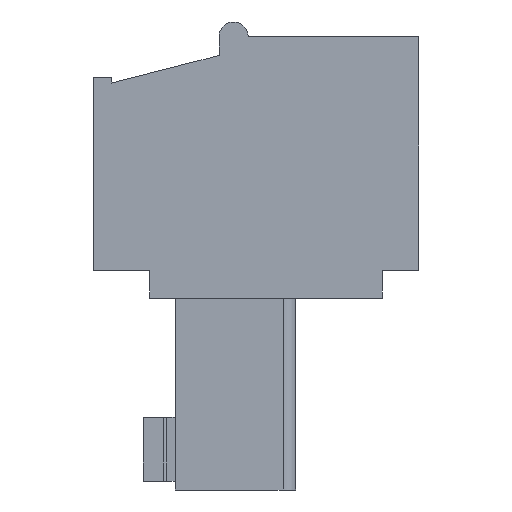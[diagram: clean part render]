
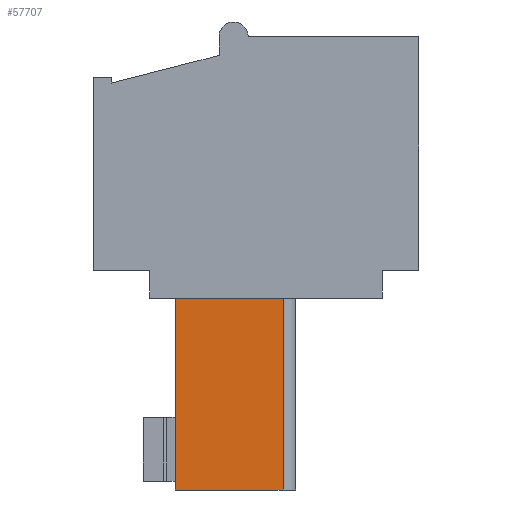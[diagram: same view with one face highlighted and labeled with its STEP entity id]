
A CAD part, left-side view. The second image highlights one B-rep face of the part: STEP entity #57707.
In plain terms, the highlighted planar face has unit normal (-1, 0, 0).
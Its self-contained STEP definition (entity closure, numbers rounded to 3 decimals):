
#329 = PLANE('',#330);
#330 = AXIS2_PLACEMENT_3D('',#331,#332,#333);
#331 = CARTESIAN_POINT('',(0.,-6.37,-9.));
#332 = DIRECTION('',(0.,0.,-1.));
#333 = DIRECTION('',(0.,1.,0.));
#39977 = VERTEX_POINT('',#39978);
#39978 = CARTESIAN_POINT('',(-41.82,-1.7,-9.));
#39993 = CYLINDRICAL_SURFACE('',#39994,0.44);
#39994 = AXIS2_PLACEMENT_3D('',#39995,#39996,#39997);
#39995 = CARTESIAN_POINT('',(-41.38,-1.7,-9.));
#39996 = DIRECTION('',(0.,0.,-1.));
#39997 = DIRECTION('',(1.,0.,0.));
#40005 = EDGE_CURVE('',#39977,#40006,#40008,.T.);
#40006 = VERTEX_POINT('',#40007);
#40007 = CARTESIAN_POINT('',(-41.82,2.01,-9.));
#40008 = SURFACE_CURVE('',#40009,(#40013,#40020),.PCURVE_S1.);
#40009 = LINE('',#40010,#40011);
#40010 = CARTESIAN_POINT('',(-41.82,-1.7,-9.));
#40011 = VECTOR('',#40012,1.);
#40012 = DIRECTION('',(0.,1.,0.));
#40013 = PCURVE('',#329,#40014);
#40014 = DEFINITIONAL_REPRESENTATION('',(#40015),#40019);
#40015 = LINE('',#40016,#40017);
#40016 = CARTESIAN_POINT('',(4.67,-41.82));
#40017 = VECTOR('',#40018,1.);
#40018 = DIRECTION('',(1.,0.));
#40019 = ( GEOMETRIC_REPRESENTATION_CONTEXT(2) 
PARAMETRIC_REPRESENTATION_CONTEXT() REPRESENTATION_CONTEXT('2D SPACE',''
  ) );
#40020 = PCURVE('',#40021,#40026);
#40021 = PLANE('',#40022);
#40022 = AXIS2_PLACEMENT_3D('',#40023,#40024,#40025);
#40023 = CARTESIAN_POINT('',(-41.82,-1.7,-9.));
#40024 = DIRECTION('',(-1.,0.,0.));
#40025 = DIRECTION('',(0.,1.,0.));
#40026 = DEFINITIONAL_REPRESENTATION('',(#40027),#40031);
#40027 = LINE('',#40028,#40029);
#40028 = CARTESIAN_POINT('',(0.,0.));
#40029 = VECTOR('',#40030,1.);
#40030 = DIRECTION('',(1.,0.));
#40031 = ( GEOMETRIC_REPRESENTATION_CONTEXT(2) 
PARAMETRIC_REPRESENTATION_CONTEXT() REPRESENTATION_CONTEXT('2D SPACE',''
  ) );
#40047 = PLANE('',#40048);
#40048 = AXIS2_PLACEMENT_3D('',#40049,#40050,#40051);
#40049 = CARTESIAN_POINT('',(-41.82,2.01,-9.));
#40050 = DIRECTION('',(0.,1.,0.));
#40051 = DIRECTION('',(1.,0.,0.));
#57104 = PLANE('',#57105);
#57105 = AXIS2_PLACEMENT_3D('',#57106,#57107,#57108);
#57106 = CARTESIAN_POINT('',(-40.4,0.,-15.6));
#57107 = DIRECTION('',(0.,0.,-1.));
#57108 = DIRECTION('',(1.,0.,0.));
#57172 = VERTEX_POINT('',#57173);
#57173 = CARTESIAN_POINT('',(-41.82,-1.7,-15.6));
#57224 = VERTEX_POINT('',#57225);
#57225 = CARTESIAN_POINT('',(-41.82,2.01,-15.6));
#57246 = EDGE_CURVE('',#57224,#57172,#57247,.T.);
#57247 = SURFACE_CURVE('',#57248,(#57252,#57259),.PCURVE_S1.);
#57248 = LINE('',#57249,#57250);
#57249 = CARTESIAN_POINT('',(-41.82,2.01,-15.6));
#57250 = VECTOR('',#57251,1.);
#57251 = DIRECTION('',(0.,-1.,0.));
#57252 = PCURVE('',#57104,#57253);
#57253 = DEFINITIONAL_REPRESENTATION('',(#57254),#57258);
#57254 = LINE('',#57255,#57256);
#57255 = CARTESIAN_POINT('',(-1.42,-2.01));
#57256 = VECTOR('',#57257,1.);
#57257 = DIRECTION('',(0.,1.));
#57258 = ( GEOMETRIC_REPRESENTATION_CONTEXT(2) 
PARAMETRIC_REPRESENTATION_CONTEXT() REPRESENTATION_CONTEXT('2D SPACE',''
  ) );
#57259 = PCURVE('',#40021,#57260);
#57260 = DEFINITIONAL_REPRESENTATION('',(#57261),#57265);
#57261 = LINE('',#57262,#57263);
#57262 = CARTESIAN_POINT('',(3.71,6.6));
#57263 = VECTOR('',#57264,1.);
#57264 = DIRECTION('',(-1.,0.));
#57265 = ( GEOMETRIC_REPRESENTATION_CONTEXT(2) 
PARAMETRIC_REPRESENTATION_CONTEXT() REPRESENTATION_CONTEXT('2D SPACE',''
  ) );
#57687 = EDGE_CURVE('',#39977,#57172,#57688,.T.);
#57688 = SURFACE_CURVE('',#57689,(#57693,#57700),.PCURVE_S1.);
#57689 = LINE('',#57690,#57691);
#57690 = CARTESIAN_POINT('',(-41.82,-1.7,-9.));
#57691 = VECTOR('',#57692,1.);
#57692 = DIRECTION('',(0.,0.,-1.));
#57693 = PCURVE('',#39993,#57694);
#57694 = DEFINITIONAL_REPRESENTATION('',(#57695),#57699);
#57695 = LINE('',#57696,#57697);
#57696 = CARTESIAN_POINT('',(3.142,0.));
#57697 = VECTOR('',#57698,1.);
#57698 = DIRECTION('',(0.,1.));
#57699 = ( GEOMETRIC_REPRESENTATION_CONTEXT(2) 
PARAMETRIC_REPRESENTATION_CONTEXT() REPRESENTATION_CONTEXT('2D SPACE',''
  ) );
#57700 = PCURVE('',#40021,#57701);
#57701 = DEFINITIONAL_REPRESENTATION('',(#57702),#57706);
#57702 = LINE('',#57703,#57704);
#57703 = CARTESIAN_POINT('',(0.,0.));
#57704 = VECTOR('',#57705,1.);
#57705 = DIRECTION('',(0.,1.));
#57706 = ( GEOMETRIC_REPRESENTATION_CONTEXT(2) 
PARAMETRIC_REPRESENTATION_CONTEXT() REPRESENTATION_CONTEXT('2D SPACE',''
  ) );
#57707 = ADVANCED_FACE('',(#57708),#40021,.T.);
#57708 = FACE_BOUND('',#57709,.F.);
#57709 = EDGE_LOOP('',(#57710,#57711,#57712,#57733));
#57710 = ORIENTED_EDGE('',*,*,#57687,.T.);
#57711 = ORIENTED_EDGE('',*,*,#57246,.F.);
#57712 = ORIENTED_EDGE('',*,*,#57713,.T.);
#57713 = EDGE_CURVE('',#57224,#40006,#57714,.T.);
#57714 = SURFACE_CURVE('',#57715,(#57719,#57726),.PCURVE_S1.);
#57715 = LINE('',#57716,#57717);
#57716 = CARTESIAN_POINT('',(-41.82,2.01,-15.6));
#57717 = VECTOR('',#57718,1.);
#57718 = DIRECTION('',(0.,0.,1.));
#57719 = PCURVE('',#40021,#57720);
#57720 = DEFINITIONAL_REPRESENTATION('',(#57721),#57725);
#57721 = LINE('',#57722,#57723);
#57722 = CARTESIAN_POINT('',(3.71,6.6));
#57723 = VECTOR('',#57724,1.);
#57724 = DIRECTION('',(0.,-1.));
#57725 = ( GEOMETRIC_REPRESENTATION_CONTEXT(2) 
PARAMETRIC_REPRESENTATION_CONTEXT() REPRESENTATION_CONTEXT('2D SPACE',''
  ) );
#57726 = PCURVE('',#40047,#57727);
#57727 = DEFINITIONAL_REPRESENTATION('',(#57728),#57732);
#57728 = LINE('',#57729,#57730);
#57729 = CARTESIAN_POINT('',(0.,6.6));
#57730 = VECTOR('',#57731,1.);
#57731 = DIRECTION('',(0.,-1.));
#57732 = ( GEOMETRIC_REPRESENTATION_CONTEXT(2) 
PARAMETRIC_REPRESENTATION_CONTEXT() REPRESENTATION_CONTEXT('2D SPACE',''
  ) );
#57733 = ORIENTED_EDGE('',*,*,#40005,.F.);
